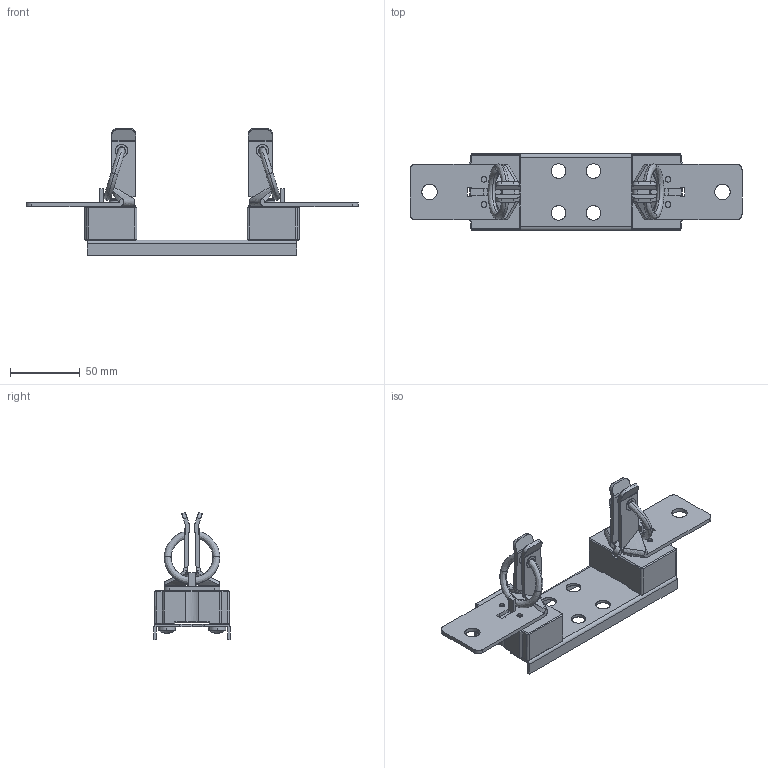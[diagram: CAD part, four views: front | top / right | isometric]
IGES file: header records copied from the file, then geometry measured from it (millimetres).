
Start section: SolidWorks IGES file using analytic representation for surfaces
Global section: file name: U:\14_RD\05_Technical_office\04_Office\Hrdinova\3D modely - IGES\Varius - Ostatní\SPF3.IGS; native system: SolidWorks 2011; preprocessor: SolidWorks 2011; author: adhrja3; date: 170620.144039; units: millimetre
Bounding box: 238 x 55 x 91.09 mm (x, y, z)
Surface area: 69635.8 mm2 (no closed solid volume)
Topology: 0 solids, 0 shells, 602 faces, 7528 edges, 7512 vertices
Faces by surface type: bspline 368, revolution 234
